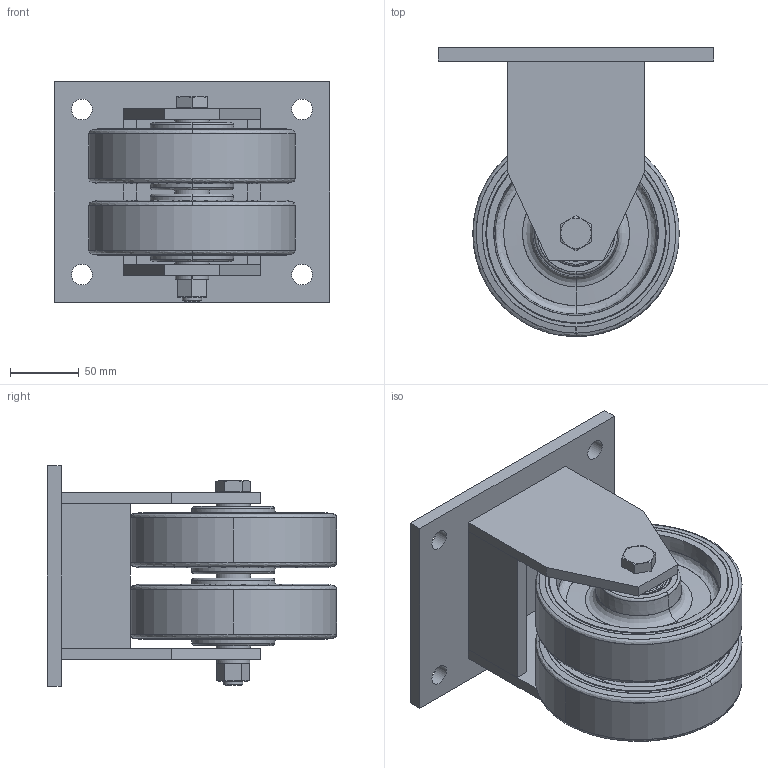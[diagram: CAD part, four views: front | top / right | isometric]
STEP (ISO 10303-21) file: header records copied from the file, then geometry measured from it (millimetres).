
FILE_DESCRIPTION(('STEP AP203'),'2;1');
FILE_NAME('7482_CL.stp','2010-05-04T12:37:28',(''),(''),'2009.1.108','THINKDESIGN','');
FILE_SCHEMA(('CONFIG_CONTROL_DESIGN'));
Bounding box: 200 x 210 x 160 mm (x, y, z)
Volume: 661978.1 mm3; surface area: 336175 mm2
Topology: 12 solids, 12 shells, 327 faces, 1213 edges, 1130 vertices
Faces by surface type: bspline 170, plane 98, cylinder 59
Full cylindrical faces by diameter (mm): 11.834 x1, 14 x1, 14.5 x2, 15 x5, 19.37 x1, 20 x1, 21 x3, 25 x3
Entity records: 37157 total; most frequent: CARTESIAN_POINT 31051, COMPOSITE_CURVE_SEGMENT 956, DIRECTION 930, B_SPLINE_CURVE_WITH_KNOTS 752, ORIENTED_EDGE 506, AXIS2_PLACEMENT_3D 364, EDGE_CURVE 253, OUTER_BOUNDARY_CURVE 222
